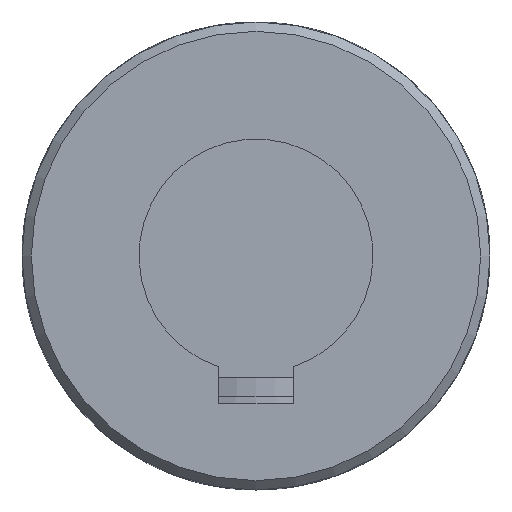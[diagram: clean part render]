
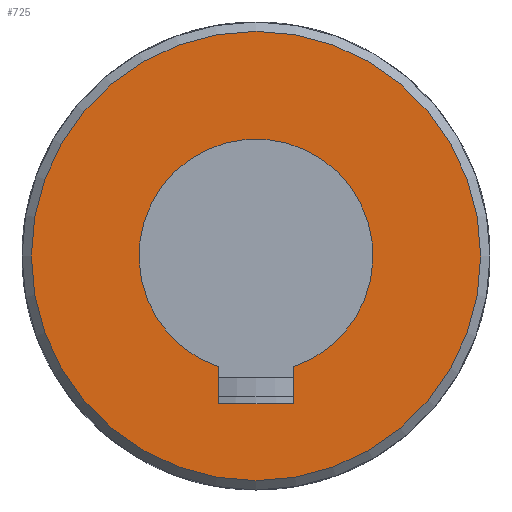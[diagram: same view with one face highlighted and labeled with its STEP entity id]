
A CAD part, front view. The second image highlights one B-rep face of the part: STEP entity #725.
In plain terms, the highlighted planar face has unit normal (0, -1, 0).
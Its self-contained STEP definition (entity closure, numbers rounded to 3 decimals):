
#83=LINE('',#1100,#116);
#87=LINE('',#1127,#120);
#89=LINE('',#1135,#122);
#116=VECTOR('',#902,3.957);
#120=VECTOR('',#914,8.);
#122=VECTOR('',#918,3.957);
#148=PLANE('',#792);
#174=FACE_BOUND('',#263,.T.);
#203=FACE_OUTER_BOUND('',#262,.T.);
#262=EDGE_LOOP('',(#589));
#263=EDGE_LOOP('',(#590,#591,#592,#593));
#303=CIRCLE('',#779,12.5);
#309=CIRCLE('',#790,24.);
#345=VERTEX_POINT('',#1097);
#346=VERTEX_POINT('',#1099);
#349=VERTEX_POINT('',#1109);
#351=VERTEX_POINT('',#1125);
#360=VERTEX_POINT('',#1212);
#422=EDGE_CURVE('',#346,#345,#83,.T.);
#426=EDGE_CURVE('',#349,#346,#303,.T.);
#430=EDGE_CURVE('',#345,#351,#87,.T.);
#433=EDGE_CURVE('',#351,#349,#89,.T.);
#443=EDGE_CURVE('',#360,#360,#309,.T.);
#589=ORIENTED_EDGE('',*,*,#443,.F.);
#590=ORIENTED_EDGE('',*,*,#422,.T.);
#591=ORIENTED_EDGE('',*,*,#430,.T.);
#592=ORIENTED_EDGE('',*,*,#433,.T.);
#593=ORIENTED_EDGE('',*,*,#426,.T.);
#725=ADVANCED_FACE('',(#203,#174),#148,.F.);
#779=AXIS2_PLACEMENT_3D('',#1110,#908,#909);
#790=AXIS2_PLACEMENT_3D('',#1213,#935,#936);
#792=AXIS2_PLACEMENT_3D('',#1421,#943,#944);
#902=DIRECTION('',(0.,0.,-1.));
#908=DIRECTION('center_axis',(0.,1.,0.));
#909=DIRECTION('ref_axis',(-0.32,0.,0.947));
#914=DIRECTION('',(-1.,0.,0.));
#918=DIRECTION('',(0.,0.,1.));
#935=DIRECTION('center_axis',(0.,1.,0.));
#936=DIRECTION('ref_axis',(1.,0.,0.));
#943=DIRECTION('center_axis',(0.,1.,0.));
#944=DIRECTION('ref_axis',(0.,0.,1.));
#1097=CARTESIAN_POINT('',(4.,-66.5,-15.8));
#1099=CARTESIAN_POINT('',(4.,-66.5,-11.843));
#1100=CARTESIAN_POINT('',(4.,-66.5,-5.921));
#1109=CARTESIAN_POINT('',(-4.,-66.5,-11.843));
#1110=CARTESIAN_POINT('Origin',(0.,-66.5,0.));
#1125=CARTESIAN_POINT('',(-4.,-66.5,-15.8));
#1127=CARTESIAN_POINT('',(2.,-66.5,-15.8));
#1135=CARTESIAN_POINT('',(-4.,-66.5,-7.9));
#1212=CARTESIAN_POINT('',(-24.,-66.5,0.));
#1213=CARTESIAN_POINT('Origin',(0.,-66.5,0.));
#1421=CARTESIAN_POINT('Origin',(0.,-66.5,0.));
